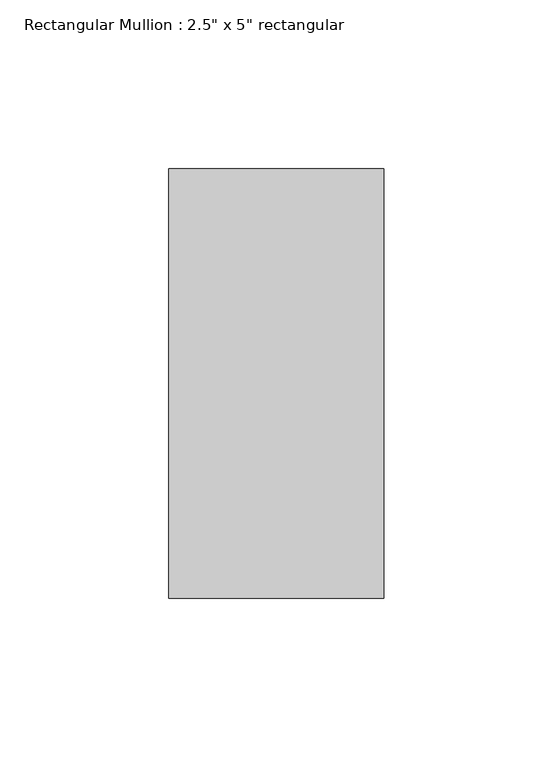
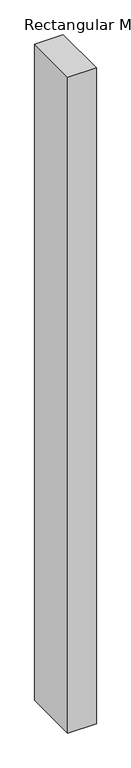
"""IFC4 building model written with IfcOpenShell, lengths in millimetres: member geometry."""

from ifc_helpers import new_model, si_unit, frame, origin, place, context, project, spatial, polyline, outline, extrude, source, transform, mapped, element, save


def member_8ae48d5d(model_context):
    return source(origin(), model_context, "Body", "SweptSolid", [
        extrude(outline(polyline([(0.0, 76.2), (0.0, -50.8), (-63.5, -50.8), (-63.5, 76.2), (0.0, 76.2)])), frame((0.0, 0.0, -1540.432784), z_axis=(0.0, 0.0, 1.0), x_axis=(1.0, 0.0, 0.0)), (0.0, 0.0, 1.0), 1540.432784),
    ])


if __name__ == "__main__":
    model = new_model("IFC4")
    model_context = context("Model", 3, world=origin())
    ifc_project = project(units=[si_unit("LENGTHUNIT", "METRE", prefix="MILLI")], contexts=[model_context])
    site = spatial("IfcSite", under=ifc_project)
    building = spatial("IfcBuilding", under=site)
    placement = place(None, origin())
    member_shape = member_8ae48d5d(model_context)
    element("IfcMember", 1, ObjectType="Rectangular Mullion : 2.5\" x 5\" rectangular", at=placement, inside=building, context=model_context, shape_type="MappedRepresentation", body=[
        mapped(member_shape, transform((0.0, 0.0, 0.0), x_axis=(1.0, 0.0, 0.0), y_axis=(0.0, 1.0, 0.0), z_axis=(0.0, 0.0, 1.0))),
    ])
    save(model, "model.ifc")
